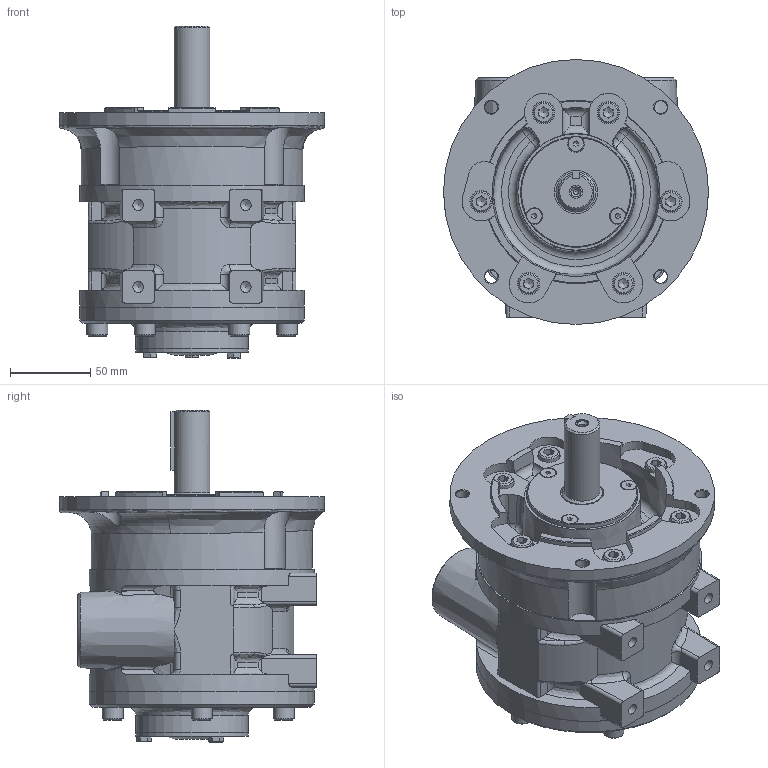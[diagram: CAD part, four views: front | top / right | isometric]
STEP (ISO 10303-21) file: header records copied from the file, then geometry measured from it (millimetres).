
FILE_DESCRIPTION (( 'STEP AP214' ), '1' );
FILE_NAME ('VA8C Defeature.STEP', '2022-06-14T09:04:08', ( '' ), ( '' ), 'SwSTEP 2.0', 'SolidWorks 2020', '' );
FILE_SCHEMA (( 'AUTOMOTIVE_DESIGN' ));
Length unit declared in the file: millimetre
Products named in the file (1): VA8C Defeature
Bounding box: 165 x 165 x 206.7 mm (x, y, z)
Volume: 1975522.9 mm3; surface area: 153456.6 mm2
Topology: 1 solids, 4 shells, 647 faces, 1608 edges, 994 vertices
Faces by surface type: plane 350, cylinder 139, cone 86, bspline 62, torus 6, sphere 4
Full cylindrical faces by diameter (mm): 3.4 x1, 5.5 x3, 6.8 x4, 7.937 x3, 7.938 x1, 8 x4, 9.64 x3, 13 x12, 14 x6, 22.23 x1, 25 x1, 27 x1, 30.291 x2, 69 x1, 69.8 x1, 70 x2, 138 x2, 140 x2, 165 x1
Entity records: 26121 total; most frequent: CARTESIAN_POINT 9336, ORIENTED_EDGE 2890, DIRECTION 2730, EDGE_CURVE 1445, AXIS2_PLACEMENT_3D 1033, VERTEX_POINT 943, EDGE_LOOP 798, FACE_OUTER_BOUND 700
